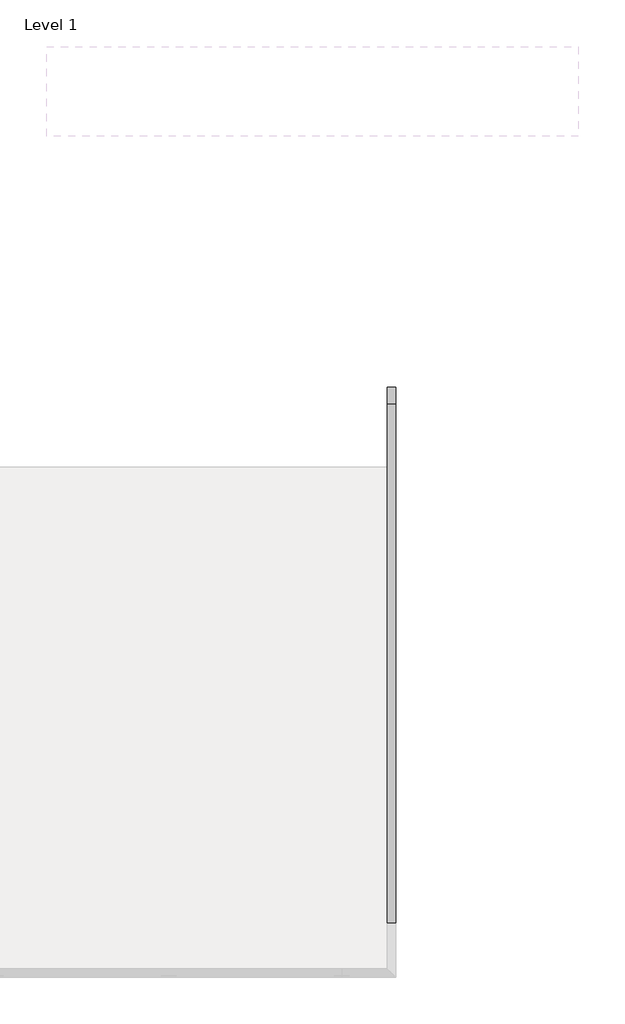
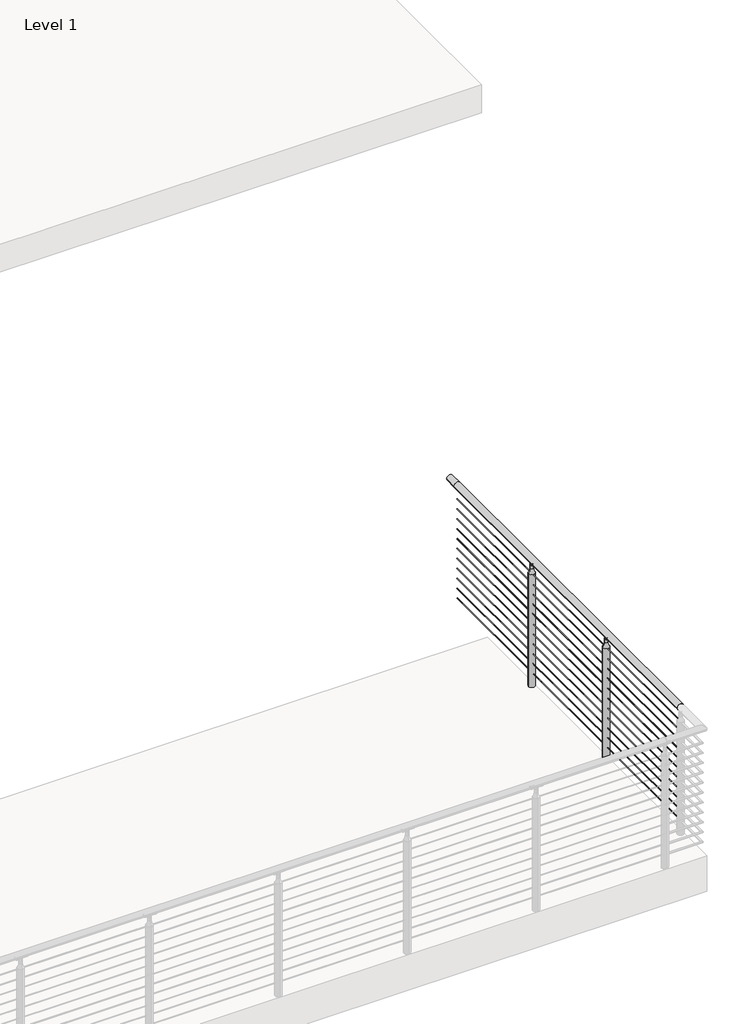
# One storey, part 15 of 21: 1 railing.
"""IFC4 building model written with IfcOpenShell, lengths in millimetres."""

import ifcopenshell
import ifcopenshell.guid

model = None  # the IFC model being written
_history = None  # IfcOwnerHistory: only IFC2X3 demands one
_inside = {}  # id of a spatial element -> (the spatial element, [elements in it])
_under = {}  # id of a project, library or spatial element -> (it, [spatial elements below it])
_declared = {}  # id of a project -> (the project, [libraries it declares])
_typed = {}  # id of a type object -> (the type object, [elements of that type])
_made_of = {}  # id of a material, layer set ... -> (it, [elements and type objects made of it])


def new_model(schema):
    """Start an empty IFC model of exactly this schema.

    Asked for "IFC4X3", IfcOpenShell would pick the latest addendum, in which some entities
    have other attributes; the version numbers below select the first issue.
    IFC2X3 requires an IfcOwnerHistory on every rooted entity: one is made here for all.
    """
    global model, _history
    if schema == "IFC4X3":
        model = ifcopenshell.file(schema_version=(4, 3, 0, 0))
    else:
        model = ifcopenshell.file(schema=schema)
    _inside.clear()
    _under.clear()
    _declared.clear()
    _typed.clear()
    _made_of.clear()
    _history = None
    if model.schema == "IFC2X3":
        org = make("IfcOrganization", Name="unknown")
        user = make(
            "IfcPersonAndOrganization",
            ThePerson=make("IfcPerson", FamilyName="unknown"),
            TheOrganization=org,
        )
        app = make(
            "IfcApplication",
            ApplicationDeveloper=org,
            Version="unknown",
            ApplicationFullName="unknown",
            ApplicationIdentifier="unknown",
        )
        _history = make(
            "IfcOwnerHistory",
            OwningUser=user,
            OwningApplication=app,
            ChangeAction="ADDED",
            CreationDate=0,
        )
    return model


def make(cls, **values):
    """One entity of the class cls with the attributes given. An attribute that is None is left unset."""
    return model.create_entity(
        cls, **{name: value for name, value in values.items() if value is not None}
    )


def rooted(cls, **values):
    """An entity with a GlobalId (a new one), such as an element, a storey or a relation."""
    return make(cls, GlobalId=ifcopenshell.guid.new(), OwnerHistory=_history, **values)


def si_unit(unit_type, name, prefix=None):
    """IfcSIUnit, for example si_unit("LENGTHUNIT", "METRE", prefix="MILLI")."""
    return make("IfcSIUnit", UnitType=unit_type, Prefix=prefix, Name=name)


def assignment(units):
    """IfcUnitAssignment: the units of a project."""
    return None if units is None else make("IfcUnitAssignment", Units=units)


def point(xyz):
    """IfcCartesianPoint."""
    return None if xyz is None else make("IfcCartesianPoint", Coordinates=xyz)


def direction(xyz):
    """IfcDirection."""
    return None if xyz is None else make("IfcDirection", DirectionRatios=xyz)


def frame(location, z_axis=None, x_axis=None):
    """IfcAxis2Placement3D, a coordinate frame: its origin and axes. An axis left out is left unset."""
    return make(
        "IfcAxis2Placement3D",
        Location=point(location),
        Axis=direction(z_axis),
        RefDirection=direction(x_axis),
    )


def frame_2d(location, x_axis=None):
    """IfcAxis2Placement2D, a coordinate frame in the plane: its origin and x axis."""
    return make(
        "IfcAxis2Placement2D", Location=point(location), RefDirection=direction(x_axis)
    )


def origin():
    """The frame at (0, 0, 0) with its axes left unset."""
    return frame((0.0, 0.0, 0.0))


def place(relative_to, where):
    """IfcLocalPlacement: puts the frame where relative to a parent placement (None: the world)."""
    return make(
        "IfcLocalPlacement", PlacementRelTo=relative_to, RelativePlacement=where
    )


def context(
    kind, dimensions, precision=None, world=None, true_north=None, identifier=None
):
    """IfcGeometricRepresentationContext, for example the 3D "Model" context."""
    return make(
        "IfcGeometricRepresentationContext",
        ContextIdentifier=identifier,
        ContextType=kind,
        CoordinateSpaceDimension=dimensions,
        Precision=precision,
        WorldCoordinateSystem=world,
        TrueNorth=true_north,
    )


def project(units=None, contexts=None):
    """IfcProject with its units and contexts."""
    return rooted(
        "IfcProject",
        Name="project",
        RepresentationContexts=contexts,
        UnitsInContext=assignment(units),
    )


def spatial(cls, under=None, at=None, **own):
    """A site, building, storey or space (cls), placed at a placement, below another one or the project."""
    s = rooted(cls, ObjectPlacement=at, **own)
    if under is not None:
        _under.setdefault(under.id(), (under, []))[1].append(s)
    return s


def polyline(points):
    """IfcPolyline through the points."""
    return make("IfcPolyline", Points=[point(p) for p in points])


def circle_curve(where, radius):
    """IfcCircle in the frame where."""
    return make("IfcCircle", Position=where, Radius=radius)


def ellipse_curve(where, semi_axis1, semi_axis2):
    """IfcEllipse in the frame where."""
    return make(
        "IfcEllipse", Position=where, SemiAxis1=semi_axis1, SemiAxis2=semi_axis2
    )


def trimmed(basis, trim1, trim2, sense, master):
    """IfcTrimmedCurve: the piece of a basis curve between two trims."""
    return make(
        "IfcTrimmedCurve",
        BasisCurve=basis,
        Trim1=trim1,
        Trim2=trim2,
        SenseAgreement=sense,
        MasterRepresentation=master,
    )


def segment(curve, same_sense, transition):
    """IfcCompositeCurveSegment."""
    return make(
        "IfcCompositeCurveSegment",
        Transition=transition,
        SameSense=same_sense,
        ParentCurve=curve,
    )


def composite_curve(segments, self_intersect=None):
    """IfcCompositeCurve: segments joined end to end."""
    return make("IfcCompositeCurve", Segments=segments, SelfIntersect=self_intersect)


def outline(outer, holes=None, kind="AREA"):
    """IfcArbitraryClosedProfileDef: a profile drawn as a closed curve; with holes, ...WithVoids."""
    if holes is None:
        return make("IfcArbitraryClosedProfileDef", ProfileType=kind, OuterCurve=outer)
    return make(
        "IfcArbitraryProfileDefWithVoids",
        ProfileType=kind,
        OuterCurve=outer,
        InnerCurves=holes,
    )


def extrude(swept, where, along, depth):
    """IfcExtrudedAreaSolid: the profile swept, set in the frame where, extruded along a direction by depth."""
    return make(
        "IfcExtrudedAreaSolid",
        SweptArea=swept,
        Position=where,
        ExtrudedDirection=direction(along),
        Depth=depth,
    )


def shape(context_of_items, identifier, shape_type, items):
    """IfcShapeRepresentation: the items that make up one representation, for example the "Body"."""
    return make(
        "IfcShapeRepresentation",
        ContextOfItems=context_of_items,
        RepresentationIdentifier=identifier,
        RepresentationType=shape_type,
        Items=items,
    )


def made_of(thing, what):
    """Note that an element or type object is made of a material, layer set ...; save() writes the relation."""
    if what is not None:
        _made_of.setdefault(what.id(), (what, []))[1].append(thing)
    return thing


def element(
    cls,
    number,
    at=None,
    inside=None,
    cuts=None,
    type_object=None,
    material=None,
    context=None,
    identifier="Body",
    shape_type=None,
    held_by="IfcProductDefinitionShape",
    body=None,
    shapes=None,
    **own,
):
    """One element of the class cls, such as IfcWall. Its Tag is "e" and its number.

    at: its placement. inside: the storey or other place that contains it. cuts: it is an
    opening in that element (IfcRelVoidsElement). A single representation is given by context,
    identifier, shape_type and body (its items); several are given by shapes. held_by: the class
    of the entity that holds the representations. save() writes the other relations.
    """
    e = rooted(cls, Tag="e%d" % number, ObjectPlacement=at, **own)
    if body is not None:
        shapes = [shape(context, identifier, shape_type, body)]
    if shapes is not None:
        e.Representation = make(held_by, Representations=shapes)
    if inside is not None:
        _inside.setdefault(inside.id(), (inside, []))[1].append(e)
    if cuts is not None:
        rooted(
            "IfcRelVoidsElement", RelatingBuildingElement=cuts, RelatedOpeningElement=e
        )
    if type_object is not None:
        _typed.setdefault(type_object.id(), (type_object, []))[1].append(e)
    return made_of(e, material)


def aggregate(whole, parts):
    """IfcRelAggregates: a whole, such as a stair, and the parts it consists of."""
    return rooted("IfcRelAggregates", RelatingObject=whole, RelatedObjects=parts)


def save(model, path):
    """Write the relations noted so far, then the file.

    IfcRelAggregates (storeys below a building ...), IfcRelContainedInSpatialStructure (elements
    in a storey), IfcRelDefinesByType, IfcRelAssociatesMaterial and IfcRelDeclares: one each for
    every whole, place, type object, material and project.
    """
    for whole, parts in _under.values():
        aggregate(whole, parts)
    for where, things in _inside.values():
        rooted(
            "IfcRelContainedInSpatialStructure",
            RelatedElements=things,
            RelatingStructure=where,
        )
    for kind, things in _typed.values():
        rooted("IfcRelDefinesByType", RelatedObjects=things, RelatingType=kind)
    for what, things in _made_of.values():
        rooted("IfcRelAssociatesMaterial", RelatedObjects=things, RelatingMaterial=what)
    for by, libraries in _declared.values():
        rooted("IfcRelDeclares", RelatingContext=by, RelatedDefinitions=libraries)
    model.write(path)


def plane_surface(at):
    """IfcPlane: the flat surface through the origin of the frame at, square to its z axis."""
    return make("IfcPlane", Position=at)


def cylinder_surface(at, radius):
    """IfcCylindricalSurface: all points at the distance radius from the z axis of the frame at."""
    return make("IfcCylindricalSurface", Position=at, Radius=radius)


def revolved_surface(curve, axis_point, axis_direction):
    """IfcSurfaceOfRevolution: the curve turned about the line through axis_point along axis_direction."""
    return make(
        "IfcSurfaceOfRevolution",
        SweptCurve=make("IfcArbitraryOpenProfileDef", ProfileType="CURVE", Curve=curve),
        AxisPosition=make("IfcAxis1Placement", Location=point(axis_point), Axis=direction(axis_direction)),
    )


def advanced_brep(points, edges, surfaces, faces):
    """IfcAdvancedBrep: a solid bounded by faces that lie on surfaces and meet in shared edges.

    An edge is (start, end): straight between two places in points (the first is 0);
    or (start, end, curve); or (start, end, curve, False) where it runs against its curve.
    A face is (place in surfaces, loops), or (place, loops, False) where it looks against
    its surface's normal. A loop lists edges by number (the first is 1), with a minus sign
    where the edge is run from its end to its start. The first loop is the outer one.
    """
    corners = [point(p) for p in points]
    vertices = [make("IfcVertexPoint", VertexGeometry=c) for c in corners]
    made = []
    for start, end, *more in edges:
        made.append(
            make(
                "IfcEdgeCurve",
                EdgeStart=vertices[start],
                EdgeEnd=vertices[end],
                EdgeGeometry=more[0] if more else make("IfcPolyline", Points=[corners[start], corners[end]]),
                SameSense=more[1] if len(more) > 1 else True,
            )
        )
    hull = []
    for where, loops, *sense in faces:
        bounds = []
        for j, loop in enumerate(loops):
            ring = [make("IfcOrientedEdge", EdgeElement=made[abs(k) - 1], Orientation=k > 0) for k in loop]
            bounds.append(
                make(
                    "IfcFaceOuterBound" if j == 0 else "IfcFaceBound",
                    Bound=make("IfcEdgeLoop", EdgeList=ring),
                    Orientation=True,
                )
            )
        hull.append(make("IfcAdvancedFace", Bounds=bounds, FaceSurface=surfaces[where], SameSense=sense[0] if sense else True))
    return make("IfcAdvancedBrep", Outer=make("IfcClosedShell", CfsFaces=hull))


model = new_model("IFC4")

# Units and contexts
model_context = context("Model", 3, world=origin())
ifc_project = project(units=[si_unit("LENGTHUNIT", "METRE", prefix="MILLI")], contexts=[model_context])

# Site, building, storey
site = spatial("IfcSite", under=ifc_project)
building = spatial("IfcBuilding", under=site)
storey = spatial("IfcBuildingStorey", under=building, Name="Level 1", Elevation=0.0)

# Railing
placement = place(None, origin())
element("IfcRailing", 1, ObjectType="VIVA-CIRCA-Cable-Weld Mount-Straight", at=placement, inside=storey, context=model_context, shape_type="SolidModel", body=[
    advanced_brep(
    [(45346.7855247, -56866.9334719, 1054.1), (45295.9855247, -56866.9334719, 1054.1), (45346.7855247, -53818.9334719, 1054.1), (45295.9855247, -53818.9334719, 1054.1), (45346.7855247, -53717.3334719, 1054.1), (45295.9855247, -53717.3334719, 1054.1)],
    [
        (0, 1, circle_curve(frame((45321.3855247, -56866.9334719, 1054.1), z_axis=(0.0, -1.0, 0.0), x_axis=(-1.0, 0.0, 0.0)), 25.4)),
        (1, 0, circle_curve(frame((45321.3855247, -56866.9334719, 1054.1), z_axis=(0.0, -1.0, 0.0), x_axis=(-1.0, 0.0, 0.0)), 25.4)),
        (0, 2),
        (2, 3, circle_curve(frame((45321.3855247, -53818.9334719, 1054.1), z_axis=(0.0, -1.0, 0.0), x_axis=(-1.0, 0.0, 0.0)), 25.4)),
        (3, 1),
        (3, 2, circle_curve(frame((45321.3855247, -53818.9334719, 1054.1), z_axis=(0.0, -1.0, 0.0), x_axis=(-1.0, 0.0, 0.0)), 25.4)),
        (4, 5, circle_curve(frame((45321.3855247, -53717.3334719, 1054.1), z_axis=(0.0, 1.0, 0.0), x_axis=(-1.0, 0.0, 0.0)), 25.4)),
        (5, 4, circle_curve(frame((45321.3855247, -53717.3334719, 1054.1), z_axis=(0.0, 1.0, 0.0), x_axis=(-1.0, 0.0, 0.0)), 25.4)),
        (2, 4),
        (5, 3),
    ],
    [
        plane_surface(frame((45321.3855247, -56866.9334719, 1079.5), z_axis=(0.0, -1.0, 0.0), x_axis=(0.0, 0.0, 1.0))),
        cylinder_surface(frame((45321.3855247, -56866.9334719, 1054.1), z_axis=(0.0, -1.0, 0.0), x_axis=(-1.0, 0.0, 0.0)), 25.4),
        plane_surface(frame((45321.3855247, -53717.3334719, 1079.5), z_axis=(0.0, 1.0, 0.0), x_axis=(0.0, 0.0, 1.0))),
        cylinder_surface(frame((45321.3855247, -53818.9334719, 1054.1), z_axis=(0.0, -1.0, 0.0), x_axis=(-1.0, 0.0, 0.0)), 25.4),
    ],
    [
        (0, [[1, 2]]),
        (1, [[-1, 3, 4, 5]]),
        (1, [[-2, -5, 6, -3]]),
        (2, [[7, 8]]),
        (3, [[-4, 9, -8, 10]]),
        (3, [[-6, -10, -7, -9]]),
    ],
),
    extrude(outline(composite_curve([segment(trimmed(circle_curve(frame_2d((937.4124, 45321.3855247)), 2.3876), [point((937.4124, 45318.9979247))], [point((937.4124, 45323.7731247))], False, "CARTESIAN"), True, "CONTINUOUS"), segment(trimmed(circle_curve(frame_2d((937.4124, 45321.3855247)), 2.3876), [point((937.4124, 45323.7731247))], [point((937.4124, 45318.9979247))], False, "CARTESIAN"), True, "CONTINUOUS")], self_intersect=False)), frame((0.0, -56866.9334719, 0.0), z_axis=(0.0, 1.0, 0.0), x_axis=(0.0, 0.0, 1.0)), (0.0, 0.0, 1.0), 3048.0),
    extrude(outline(composite_curve([segment(trimmed(circle_curve(frame_2d((854.8624, 45321.3855247)), 2.3876), [point((854.8624, 45318.9979247))], [point((854.8624, 45323.7731247))], False, "CARTESIAN"), True, "CONTINUOUS"), segment(trimmed(circle_curve(frame_2d((854.8624, 45321.3855247)), 2.3876), [point((854.8624, 45323.7731247))], [point((854.8624, 45318.9979247))], False, "CARTESIAN"), True, "CONTINUOUS")], self_intersect=False)), frame((0.0, -56866.9334719, 0.0), z_axis=(0.0, 1.0, 0.0), x_axis=(0.0, 0.0, 1.0)), (0.0, 0.0, 1.0), 3048.0),
    extrude(outline(composite_curve([segment(trimmed(circle_curve(frame_2d((772.3124, 45321.3855247)), 2.3876), [point((772.3124, 45318.9979247))], [point((772.3124, 45323.7731247))], False, "CARTESIAN"), True, "CONTINUOUS"), segment(trimmed(circle_curve(frame_2d((772.3124, 45321.3855247)), 2.3876), [point((772.3124, 45323.7731247))], [point((772.3124, 45318.9979247))], False, "CARTESIAN"), True, "CONTINUOUS")], self_intersect=False)), frame((0.0, -56866.9334719, 0.0), z_axis=(0.0, 1.0, 0.0), x_axis=(0.0, 0.0, 1.0)), (0.0, 0.0, 1.0), 3048.0),
    extrude(outline(composite_curve([segment(trimmed(circle_curve(frame_2d((689.7624, 45321.3855247)), 2.3876), [point((689.7624, 45318.9979247))], [point((689.7624, 45323.7731247))], False, "CARTESIAN"), True, "CONTINUOUS"), segment(trimmed(circle_curve(frame_2d((689.7624, 45321.3855247)), 2.3876), [point((689.7624, 45323.7731247))], [point((689.7624, 45318.9979247))], False, "CARTESIAN"), True, "CONTINUOUS")], self_intersect=False)), frame((0.0, -56866.9334719, 0.0), z_axis=(0.0, 1.0, 0.0), x_axis=(0.0, 0.0, 1.0)), (0.0, 0.0, 1.0), 3048.0),
    extrude(outline(composite_curve([segment(trimmed(circle_curve(frame_2d((607.2124, 45321.3855247)), 2.3876), [point((607.2124, 45318.9979247))], [point((607.2124, 45323.7731247))], False, "CARTESIAN"), True, "CONTINUOUS"), segment(trimmed(circle_curve(frame_2d((607.2124, 45321.3855247)), 2.3876), [point((607.2124, 45323.7731247))], [point((607.2124, 45318.9979247))], False, "CARTESIAN"), True, "CONTINUOUS")], self_intersect=False)), frame((0.0, -56866.9334719, 0.0), z_axis=(0.0, 1.0, 0.0), x_axis=(0.0, 0.0, 1.0)), (0.0, 0.0, 1.0), 3048.0),
    extrude(outline(composite_curve([segment(trimmed(circle_curve(frame_2d((524.6624, 45321.3855247)), 2.3876), [point((524.6624, 45318.9979247))], [point((524.6624, 45323.7731247))], False, "CARTESIAN"), True, "CONTINUOUS"), segment(trimmed(circle_curve(frame_2d((524.6624, 45321.3855247)), 2.3876), [point((524.6624, 45323.7731247))], [point((524.6624, 45318.9979247))], False, "CARTESIAN"), True, "CONTINUOUS")], self_intersect=False)), frame((0.0, -56866.9334719, 0.0), z_axis=(0.0, 1.0, 0.0), x_axis=(0.0, 0.0, 1.0)), (0.0, 0.0, 1.0), 3048.0),
    extrude(outline(composite_curve([segment(trimmed(circle_curve(frame_2d((442.1124, 45321.3855247)), 2.3876), [point((442.1124, 45318.9979247))], [point((442.1124, 45323.7731247))], False, "CARTESIAN"), True, "CONTINUOUS"), segment(trimmed(circle_curve(frame_2d((442.1124, 45321.3855247)), 2.3876), [point((442.1124, 45323.7731247))], [point((442.1124, 45318.9979247))], False, "CARTESIAN"), True, "CONTINUOUS")], self_intersect=False)), frame((0.0, -56866.9334719, 0.0), z_axis=(0.0, 1.0, 0.0), x_axis=(0.0, 0.0, 1.0)), (0.0, 0.0, 1.0), 3048.0),
    extrude(outline(composite_curve([segment(trimmed(circle_curve(frame_2d((359.5624, 45321.3855247)), 2.3876), [point((359.5624, 45318.9979247))], [point((359.5624, 45323.7731247))], False, "CARTESIAN"), True, "CONTINUOUS"), segment(trimmed(circle_curve(frame_2d((359.5624, 45321.3855247)), 2.3876), [point((359.5624, 45323.7731247))], [point((359.5624, 45318.9979247))], False, "CARTESIAN"), True, "CONTINUOUS")], self_intersect=False)), frame((0.0, -56866.9334719, 0.0), z_axis=(0.0, 1.0, 0.0), x_axis=(0.0, 0.0, 1.0)), (0.0, 0.0, 1.0), 3048.0),
    extrude(outline(composite_curve([segment(trimmed(circle_curve(frame_2d((277.0124, 45321.3855247)), 2.3876), [point((277.0124, 45318.9979247))], [point((277.0124, 45323.7731247))], False, "CARTESIAN"), True, "CONTINUOUS"), segment(trimmed(circle_curve(frame_2d((277.0124, 45321.3855247)), 2.3876), [point((277.0124, 45323.7731247))], [point((277.0124, 45318.9979247))], False, "CARTESIAN"), True, "CONTINUOUS")], self_intersect=False)), frame((0.0, -56866.9334719, 0.0), z_axis=(0.0, 1.0, 0.0), x_axis=(0.0, 0.0, 1.0)), (0.0, 0.0, 1.0), 3048.0),
    extrude(outline(composite_curve([segment(trimmed(circle_curve(frame_2d((194.4624, 45321.3855247)), 2.3876), [point((194.4624, 45318.9979247))], [point((194.4624, 45323.7731247))], False, "CARTESIAN"), True, "CONTINUOUS"), segment(trimmed(circle_curve(frame_2d((194.4624, 45321.3855247)), 2.3876), [point((194.4624, 45323.7731247))], [point((194.4624, 45318.9979247))], False, "CARTESIAN"), True, "CONTINUOUS")], self_intersect=False)), frame((0.0, -56866.9334719, 0.0), z_axis=(0.0, 1.0, 0.0), x_axis=(0.0, 0.0, 1.0)), (0.0, 0.0, 1.0), 3048.0),
    extrude(outline(composite_curve([segment(trimmed(circle_curve(frame_2d((111.9124, 45321.3855247)), 2.3876), [point((111.9124, 45318.9979247))], [point((111.9124, 45323.7731247))], False, "CARTESIAN"), True, "CONTINUOUS"), segment(trimmed(circle_curve(frame_2d((111.9124, 45321.3855247)), 2.3876), [point((111.9124, 45323.7731247))], [point((111.9124, 45318.9979247))], False, "CARTESIAN"), True, "CONTINUOUS")], self_intersect=False)), frame((0.0, -56866.9334719, 0.0), z_axis=(0.0, 1.0, 0.0), x_axis=(0.0, 0.0, 1.0)), (0.0, 0.0, 1.0), 3048.0),
    extrude(outline(composite_curve([segment(trimmed(circle_curve(frame_2d((1055.4254922, 45321.2887963)), 25.4345159), [point((1033.3106679, 45333.8525992))], [point((1033.2157471, 45308.8935626))], True, "CARTESIAN"), True, "CONTINUOUS"), segment(trimmed(circle_curve(frame_2d((1030.7132623, 45307.6489094)), 2.7949225), [point((1033.2157471, 45308.8935626))], [point((1028.3406769, 45306.1716044))], False, "CARTESIAN"), True, "CONTINUOUS"), segment(trimmed(circle_curve(frame_2d((1056.1881188, 45321.4222594)), 31.75), [point((1028.3406769, 45306.1716044))], [point((1028.9214354, 45337.6884966))], False, "CARTESIAN"), True, "CONTINUOUS"), segment(trimmed(circle_curve(frame_2d((1030.7923545, 45335.4001569)), 2.9558141), [point((1028.9214354, 45337.6884966))], [point((1033.3106679, 45333.8525992))], False, "CARTESIAN"), True, "CONTINUOUS")], self_intersect=False)), frame((0.0, -54879.7739969, 0.0), z_axis=(0.0, 1.0, 0.0), x_axis=(0.0, 0.0, 1.0)), (0.0, 0.0, 1.0), 90.4748),
    extrude(outline(composite_curve([segment(trimmed(circle_curve(frame_2d((-54807.468682, 1010.282776)), 14.3679149), [point((-54807.468682, 1024.6506908))], [point((-54821.8365969, 1010.282776))], True, "CARTESIAN"), True, "CONTINUOUS"), segment(trimmed(circle_curve(frame_2d((-54834.5365969, 1010.282776)), 12.7), [point((-54821.8365969, 1010.282776))], [point((-54847.2365969, 1010.282776))], False, "CARTESIAN"), True, "CONTINUOUS"), segment(trimmed(circle_curve(frame_2d((-54861.6045117, 1010.282776)), 14.3679149), [point((-54847.2365969, 1010.282776))], [point((-54861.6045117, 1024.6506908))], True, "CARTESIAN"), True, "CONTINUOUS"), segment(polyline([(-54861.6045117, 1024.6506908), (-54807.468682, 1024.6506908)]), True, "CONTINUOUS")], self_intersect=False)), frame((45318.8455247, 0.0, 0.0), z_axis=(1.0, 0.0, 0.0), x_axis=(0.0, 1.0, 0.0)), (0.0, 0.0, 1.0), 5.08),
    advanced_brep(
    [(45346.7849225, -54834.5365969, 941.1347854), (45295.9861269, -54834.5365969, 941.1347854), (45295.9861269, -54834.5365969, -88.9), (45346.7849225, -54834.5365969, -88.9), (45334.1234932, -54834.5365969, 979.3486202), (45308.6475562, -54834.5365969, 979.3486202), (45334.1234932, -54834.5365969, 1008.5779599), (45308.6475562, -54834.5365969, 1008.5779599), (45321.3855247, -54834.5365969, 1015.238668), (45321.3855247, -54834.5365969, -88.9)],
    [
        (0, 1, circle_curve(frame((45321.3855247, -54834.5365969, 941.1347854), z_axis=(0.0, 0.0, -1.0), x_axis=(-1.0, 0.0, 0.0)), 25.3993978)),
        (1, 2),
        (2, 3, circle_curve(frame((45321.3855247, -54834.5365969, -88.9), z_axis=(0.0, 0.0, 1.0), x_axis=(-1.0, 0.0, 0.0)), 25.3993978)),
        (3, 0),
        (1, 0, circle_curve(frame((45321.3855247, -54834.5365969, 941.1347854), z_axis=(0.0, 0.0, -1.0), x_axis=(-1.0, 0.0, 0.0)), 25.3993978)),
        (3, 2, circle_curve(frame((45321.3855247, -54834.5365969, -88.9), z_axis=(0.0, 0.0, 1.0), x_axis=(-1.0, 0.0, 0.0)), 25.3993978)),
        (4, 5, circle_curve(frame((45321.3855247, -54834.5365969, 979.3486202), z_axis=(0.0, 0.0, -1.0), x_axis=(-1.0, 0.0, 0.0)), 12.7379685)),
        (5, 1, circle_curve(frame((45244.6496879, -54834.5365969, 979.3486202), z_axis=(0.0, 1.0, 0.0), x_axis=(-1.0, 0.0, 0.0)), 63.9978683)),
        (0, 4, circle_curve(frame((45398.1213615, -54834.5365969, 979.3486202), z_axis=(0.0, 1.0, 0.0), x_axis=(1.0, 0.0, 0.0)), 63.9978683)),
        (5, 4, circle_curve(frame((45321.3855247, -54834.5365969, 979.3486202), z_axis=(0.0, 0.0, -1.0), x_axis=(-1.0, 0.0, 0.0)), 12.7379685)),
        (6, 7, circle_curve(frame((45321.3855247, -54834.5365969, 1008.5779599), z_axis=(0.0, 0.0, -1.0), x_axis=(-1.0, 0.0, 0.0)), 12.7379685)),
        (7, 5),
        (4, 6),
        (7, 6, circle_curve(frame((45321.3855247, -54834.5365969, 1008.5779599), z_axis=(0.0, 0.0, -1.0), x_axis=(-1.0, 0.0, 0.0)), 12.7379685)),
        (8, 7, circle_curve(frame((45321.3855247, -54834.5365969, 999.7282394), z_axis=(0.0, -1.0, 0.0), x_axis=(-1.0, 0.0, 0.0)), 15.5104286)),
        (6, 8, circle_curve(frame((45321.3855247, -54834.5365969, 999.7282394), z_axis=(0.0, -1.0, 0.0), x_axis=(1.0, 0.0, 0.0)), 15.5104286)),
        (2, 9),
        (9, 3),
    ],
    [
        cylinder_surface(frame((45321.3855247, -54834.5365969, 1104.9), z_axis=(0.0, 0.0, 1.0), x_axis=(-1.0, 0.0, 0.0)), 25.3993978),
        revolved_surface(trimmed(ellipse_curve(frame((45244.6496879, -54834.5365969, 979.3486202), z_axis=(0.0, -1.0, 0.0), x_axis=(-1.0, 0.0, 0.0)), 63.9978683, 63.9978683), [point((45295.9861269, -54834.5365969, 941.1347854))], [point((45308.6475562, -54834.5365969, 979.3486202))], True, "CARTESIAN"), (45321.3855247, -54834.5365969, 1104.9), (0.0, 0.0, 1.0)),
        cylinder_surface(frame((45321.3855247, -54834.5365969, 1104.9), z_axis=(0.0, 0.0, 1.0), x_axis=(-1.0, 0.0, 0.0)), 12.7379685),
        revolved_surface(trimmed(ellipse_curve(frame((45321.3855247, -54834.5365969, 999.7282394), z_axis=(0.0, 1.0, 0.0), x_axis=(-1.0, 0.0, 0.0)), 15.5104286, 15.5104286), [point((45308.6475562, -54834.5365969, 1008.5779599))], [point((45321.3855247, -54834.5365969, 1015.238668))], True, "CARTESIAN"), (45321.3855247, -54834.5365969, 1104.9), (0.0, 0.0, 1.0)),
        plane_surface(frame((45321.3855247, -54834.5365969, -88.9), z_axis=(0.0, 0.0, -1.0), x_axis=(-1.0, 0.0, 0.0))),
    ],
    [
        (0, [[1, 2, 3, 4]]),
        (0, [[5, -4, 6, -2]]),
        (1, [[7, 8, -1, 9]]),
        (1, [[10, -9, -5, -8]]),
        (2, [[11, 12, -7, 13]]),
        (2, [[14, -13, -10, -12]]),
        (3, [[15, -11, 16]]),
        (3, [[-16, -14, -15]]),
        (4, [[-3, 17, 18]]),
        (4, [[-6, -18, -17]]),
    ],
),
    extrude(outline(composite_curve([segment(trimmed(circle_curve(frame_2d((1055.4254922, 45321.2887963)), 25.4345159), [point((1033.3106679, 45333.8525992))], [point((1033.2157471, 45308.8935626))], True, "CARTESIAN"), True, "CONTINUOUS"), segment(trimmed(circle_curve(frame_2d((1030.7132623, 45307.6489094)), 2.7949225), [point((1033.2157471, 45308.8935626))], [point((1028.3406769, 45306.1716044))], False, "CARTESIAN"), True, "CONTINUOUS"), segment(trimmed(circle_curve(frame_2d((1056.1881188, 45321.4222594)), 31.75), [point((1028.3406769, 45306.1716044))], [point((1028.9214354, 45337.6884966))], False, "CARTESIAN"), True, "CONTINUOUS"), segment(trimmed(circle_curve(frame_2d((1030.7923545, 45335.4001569)), 2.9558141), [point((1028.9214354, 45337.6884966))], [point((1033.3106679, 45333.8525992))], False, "CARTESIAN"), True, "CONTINUOUS")], self_intersect=False)), frame((0.0, -55895.7739969, 0.0), z_axis=(0.0, 1.0, 0.0), x_axis=(0.0, 0.0, 1.0)), (0.0, 0.0, 1.0), 90.4748),
    extrude(outline(composite_curve([segment(trimmed(circle_curve(frame_2d((-55823.468682, 1010.282776)), 14.3679149), [point((-55823.468682, 1024.6506908))], [point((-55837.8365969, 1010.282776))], True, "CARTESIAN"), True, "CONTINUOUS"), segment(trimmed(circle_curve(frame_2d((-55850.5365969, 1010.282776)), 12.7), [point((-55837.8365969, 1010.282776))], [point((-55863.2365969, 1010.282776))], False, "CARTESIAN"), True, "CONTINUOUS"), segment(trimmed(circle_curve(frame_2d((-55877.6045117, 1010.282776)), 14.3679149), [point((-55863.2365969, 1010.282776))], [point((-55877.6045117, 1024.6506908))], True, "CARTESIAN"), True, "CONTINUOUS"), segment(polyline([(-55877.6045117, 1024.6506908), (-55823.468682, 1024.6506908)]), True, "CONTINUOUS")], self_intersect=False)), frame((45318.8455247, 0.0, 0.0), z_axis=(1.0, 0.0, 0.0), x_axis=(0.0, 1.0, 0.0)), (0.0, 0.0, 1.0), 5.08),
    advanced_brep(
    [(45346.7849225, -55850.5365969, 941.1347854), (45295.9861269, -55850.5365969, 941.1347854), (45295.9861269, -55850.5365969, -88.9), (45346.7849225, -55850.5365969, -88.9), (45334.1234932, -55850.5365969, 979.3486202), (45308.6475562, -55850.5365969, 979.3486202), (45334.1234932, -55850.5365969, 1008.5779599), (45308.6475562, -55850.5365969, 1008.5779599), (45321.3855247, -55850.5365969, 1015.238668), (45321.3855247, -55850.5365969, -88.9)],
    [
        (0, 1, circle_curve(frame((45321.3855247, -55850.5365969, 941.1347854), z_axis=(0.0, 0.0, -1.0), x_axis=(-1.0, 0.0, 0.0)), 25.3993978)),
        (1, 2),
        (2, 3, circle_curve(frame((45321.3855247, -55850.5365969, -88.9), z_axis=(0.0, 0.0, 1.0), x_axis=(-1.0, 0.0, 0.0)), 25.3993978)),
        (3, 0),
        (1, 0, circle_curve(frame((45321.3855247, -55850.5365969, 941.1347854), z_axis=(0.0, 0.0, -1.0), x_axis=(-1.0, 0.0, 0.0)), 25.3993978)),
        (3, 2, circle_curve(frame((45321.3855247, -55850.5365969, -88.9), z_axis=(0.0, 0.0, 1.0), x_axis=(-1.0, 0.0, 0.0)), 25.3993978)),
        (4, 5, circle_curve(frame((45321.3855247, -55850.5365969, 979.3486202), z_axis=(0.0, 0.0, -1.0), x_axis=(-1.0, 0.0, 0.0)), 12.7379685)),
        (5, 1, circle_curve(frame((45244.6496879, -55850.5365969, 979.3486202), z_axis=(0.0, 1.0, 0.0), x_axis=(-1.0, 0.0, 0.0)), 63.9978683)),
        (0, 4, circle_curve(frame((45398.1213615, -55850.5365969, 979.3486202), z_axis=(0.0, 1.0, 0.0), x_axis=(1.0, 0.0, 0.0)), 63.9978683)),
        (5, 4, circle_curve(frame((45321.3855247, -55850.5365969, 979.3486202), z_axis=(0.0, 0.0, -1.0), x_axis=(-1.0, 0.0, 0.0)), 12.7379685)),
        (6, 7, circle_curve(frame((45321.3855247, -55850.5365969, 1008.5779599), z_axis=(0.0, 0.0, -1.0), x_axis=(-1.0, 0.0, 0.0)), 12.7379685)),
        (7, 5),
        (4, 6),
        (7, 6, circle_curve(frame((45321.3855247, -55850.5365969, 1008.5779599), z_axis=(0.0, 0.0, -1.0), x_axis=(-1.0, 0.0, 0.0)), 12.7379685)),
        (8, 7, circle_curve(frame((45321.3855247, -55850.5365969, 999.7282394), z_axis=(0.0, -1.0, 0.0), x_axis=(-1.0, 0.0, 0.0)), 15.5104286)),
        (6, 8, circle_curve(frame((45321.3855247, -55850.5365969, 999.7282394), z_axis=(0.0, -1.0, 0.0), x_axis=(1.0, 0.0, 0.0)), 15.5104286)),
        (2, 9),
        (9, 3),
    ],
    [
        cylinder_surface(frame((45321.3855247, -55850.5365969, 1104.9), z_axis=(0.0, 0.0, 1.0), x_axis=(-1.0, 0.0, 0.0)), 25.3993978),
        revolved_surface(trimmed(ellipse_curve(frame((45244.6496879, -55850.5365969, 979.3486202), z_axis=(0.0, -1.0, 0.0), x_axis=(-1.0, 0.0, 0.0)), 63.9978683, 63.9978683), [point((45295.9861269, -55850.5365969, 941.1347854))], [point((45308.6475562, -55850.5365969, 979.3486202))], True, "CARTESIAN"), (45321.3855247, -55850.5365969, 1104.9), (0.0, 0.0, 1.0)),
        cylinder_surface(frame((45321.3855247, -55850.5365969, 1104.9), z_axis=(0.0, 0.0, 1.0), x_axis=(-1.0, 0.0, 0.0)), 12.7379685),
        revolved_surface(trimmed(ellipse_curve(frame((45321.3855247, -55850.5365969, 999.7282394), z_axis=(0.0, 1.0, 0.0), x_axis=(-1.0, 0.0, 0.0)), 15.5104286, 15.5104286), [point((45308.6475562, -55850.5365969, 1008.5779599))], [point((45321.3855247, -55850.5365969, 1015.238668))], True, "CARTESIAN"), (45321.3855247, -55850.5365969, 1104.9), (0.0, 0.0, 1.0)),
        plane_surface(frame((45321.3855247, -55850.5365969, -88.9), z_axis=(0.0, 0.0, -1.0), x_axis=(-1.0, 0.0, 0.0))),
    ],
    [
        (0, [[1, 2, 3, 4]]),
        (0, [[5, -4, 6, -2]]),
        (1, [[7, 8, -1, 9]]),
        (1, [[10, -9, -5, -8]]),
        (2, [[11, 12, -7, 13]]),
        (2, [[14, -13, -10, -12]]),
        (3, [[15, -11, 16]]),
        (3, [[-16, -14, -15]]),
        (4, [[-3, 17, 18]]),
        (4, [[-6, -18, -17]]),
    ],
),
])

save(model, "model.ifc")
